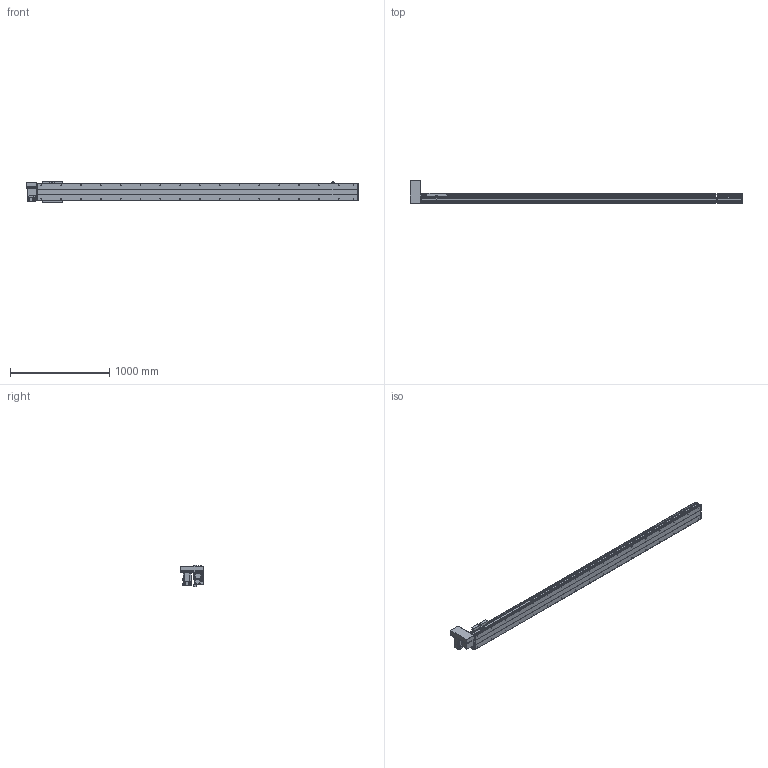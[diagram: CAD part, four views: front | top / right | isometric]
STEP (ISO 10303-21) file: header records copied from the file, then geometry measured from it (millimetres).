
FILE_DESCRIPTION(/* description */ ('STEP AP214'),/* implementation_level */ '2;1');
FILE_NAME(/* name */ 'PBS200-P40-S2850-RU-T75-C1-N(0)',/* time_stamp */ '2022-06-11T09:37:58+02:00',/* author */ ('License CC BY-ND 4.0'),/* organization */ ('CADENAS'),/* preprocessor_version */ 'ST-DEVELOPER v18.102',/* originating_system */ 'PARTsolutions',/* authorisation */ ' ');
FILE_SCHEMA (('AUTOMOTIVE_DESIGN {1 0 10303 214 3 1 1}'));
Length unit declared in the file: millimetre
Products named in the file (7): PBS200-P40-S2850-RU-T75-C1-N(0); PBS200_sensor; PBS200_plant; PBS200_sliser; T75-p1; PBS200T-RU_motors; PBS200-S2850()_body
Assembly tree (8 placements, depth 2):
  PBS200-P40-S2850-RU-T75-C1-N(0)
    PBS200_sensor  x3
    PBS200_plant
    PBS200_sliser
    T75-p1
    PBS200T-RU_motors
    PBS200-S2850()_body
Bounding box: 3350 x 231 x 221 mm (x, y, z)
Volume: 22789599.6 mm3; surface area: 3640860.2 mm2
Topology: 8 solids, 8 shells, 974 faces, 2464 edges, 1602 vertices
Faces by surface type: plane 592, cylinder 316, cone 66
Full cylindrical faces by diameter (mm): 2.459 x6, 3.242 x4, 4.5 x6, 4.917 x4, 5 x6, 6 x7, 6.6 x8, 6.647 x38, 8 x6, 10 x4, 12 x8, 38 x2, 40 x1, 70 x1
Entity records: 25661 total; most frequent: DIRECTION 4543, CARTESIAN_POINT 4354, ORIENTED_EDGE 4090, EDGE_CURVE 2045, AXIS2_PLACEMENT_3D 1615, VERTEX_POINT 1426, LINE 1313, VECTOR 1313
